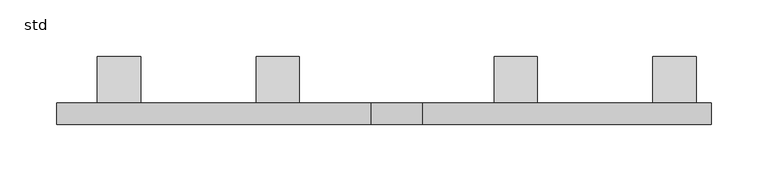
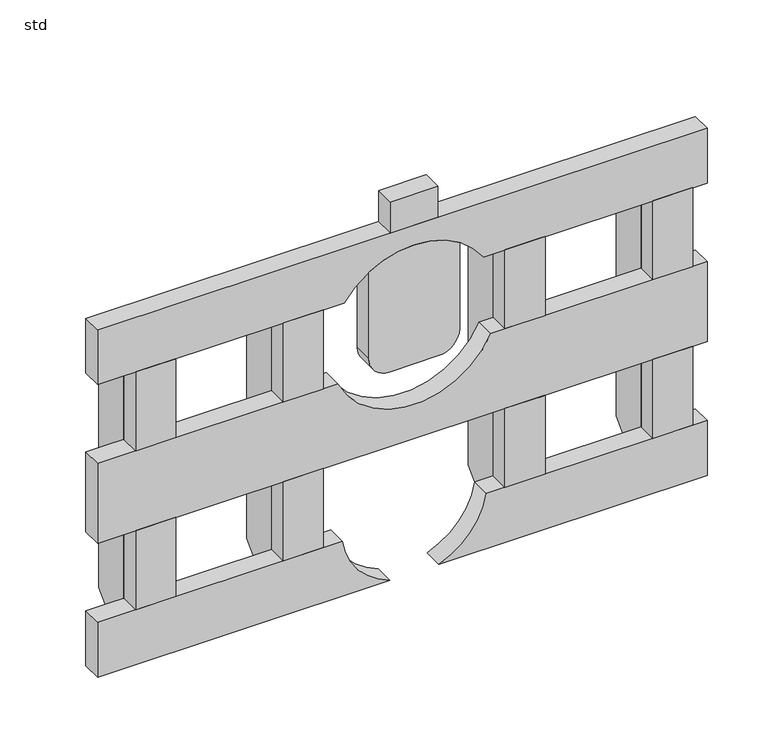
"""IFC4 building model written with IfcOpenShell, lengths in millimetres: unitary equipment geometry, Z_ME_UN_Aquacell_NG_Lateral_Side_Plate_Wavin_(nested) : std."""

from ifc_helpers import new_model, si_unit, point, frame, frame_2d, origin, place, context, project, spatial, polyline, circle_curve, trimmed, segment, composite_curve, outline, extrude, source, transform, mapped, element, save
from ifc_brep_helpers import plane_surface, revolved_surface, advanced_brep


def std_02d09377(model_context):
    return source(origin(), model_context, "Body", "SolidModel", [
        extrude(outline(composite_curve([segment(trimmed(circle_curve(frame_2d((264.0, 277.0)), 20.0), [point((264.0, 257.0))], [point((244.0, 277.0))], False, "CARTESIAN"), True, "CONTINUOUS"), segment(polyline([(244.0, 277.0), (244.0, 323.0)]), True, "CONTINUOUS"), segment(trimmed(circle_curve(frame_2d((264.0, 323.0)), 20.0), [point((244.0, 323.0))], [point((264.0, 343.0))], False, "CARTESIAN"), True, "CONTINUOUS"), segment(polyline([(264.0, 343.0), (350.4610999, 343.0)]), True, "CONTINUOUS"), segment(trimmed(circle_curve(frame_2d((283.0, 300.0)), 80.0), [point((350.4610999, 343.0))], [point((350.4610999, 257.0))], False, "CARTESIAN"), True, "CONTINUOUS"), segment(polyline([(350.4610999, 257.0), (264.0, 257.0)]), True, "CONTINUOUS")], self_intersect=False)), frame((0.0, 0.0, 0.0), z_axis=(0.0, 1.0, 0.0), x_axis=(0.0, 0.0, 1.0)), (0.0, 0.0, 1.0), 19.0),
        extrude(outline(polyline([(214.0, 0.0), (176.0, 0.0), (176.0, 19.0), (214.0, 19.0), (214.0, 0.0)])), frame((0.0, 0.0, 90.0), z_axis=(0.0, 0.0, 1.0), x_axis=(1.0, 0.0, 0.0)), (0.0, 0.0, 1.0), 79.0),
        extrude(outline(polyline([(214.0, 0.0), (176.0, 0.0), (176.0, 19.0), (214.0, 19.0), (214.0, 0.0)])), frame((0.0, 0.0, 249.0), z_axis=(0.0, 0.0, 1.0), x_axis=(1.0, 0.0, 0.0)), (0.0, 0.0, 1.0), 79.0),
        extrude(outline(polyline([(424.0, 0.0), (386.0, 0.0), (386.0, 19.0), (424.0, 19.0), (424.0, 0.0)])), frame((0.0, 0.0, 90.0), z_axis=(0.0, 0.0, 1.0), x_axis=(1.0, 0.0, 0.0)), (0.0, 0.0, 1.0), 79.0),
        extrude(outline(polyline([(424.0, 0.0), (386.0, 0.0), (386.0, 19.0), (424.0, 19.0), (424.0, 0.0)])), frame((0.0, 0.0, 249.0), z_axis=(0.0, 0.0, 1.0), x_axis=(1.0, 0.0, 0.0)), (0.0, 0.0, 1.0), 79.0),
        extrude(outline(polyline([(19.0, 35.0), (19.0, 367.0), (60.0, 326.0), (60.0, 76.0), (19.0, 35.0)])), frame((526.0, 0.0, 0.0), z_axis=(1.0, 0.0, 0.0), x_axis=(0.0, 1.0, 0.0)), (0.0, 0.0, 1.0), 38.0),
        extrude(outline(polyline([(19.0, 35.0), (19.0, 367.0), (60.0, 326.0), (60.0, 76.0), (19.0, 35.0)])), frame((386.0, 0.0, 0.0), z_axis=(1.0, 0.0, 0.0), x_axis=(0.0, 1.0, 0.0)), (0.0, 0.0, 1.0), 38.0),
        extrude(outline(polyline([(19.0, 35.0), (19.0, 367.0), (60.0, 326.0), (60.0, 76.0), (19.0, 35.0)])), frame((176.0, 0.0, 0.0), z_axis=(1.0, 0.0, 0.0), x_axis=(0.0, 1.0, 0.0)), (0.0, 0.0, 1.0), 38.0),
        extrude(outline(polyline([(19.0, 35.0), (19.0, 367.0), (60.0, 326.0), (60.0, 76.0), (19.0, 35.0)])), frame((36.0, 0.0, 0.0), z_axis=(1.0, 0.0, 0.0), x_axis=(0.0, 1.0, 0.0)), (0.0, 0.0, 1.0), 38.0),
        extrude(outline(polyline([(564.0, 0.0), (526.0, 0.0), (526.0, 19.0), (564.0, 19.0), (564.0, 0.0)])), frame((0.0, 0.0, 90.0), z_axis=(0.0, 0.0, 1.0), x_axis=(1.0, 0.0, 0.0)), (0.0, 0.0, 1.0), 79.0),
        extrude(outline(polyline([(564.0, 0.0), (526.0, 0.0), (526.0, 19.0), (564.0, 19.0), (564.0, 0.0)])), frame((0.0, 0.0, 249.0), z_axis=(0.0, 0.0, 1.0), x_axis=(1.0, 0.0, 0.0)), (0.0, 0.0, 1.0), 79.0),
        extrude(outline(polyline([(74.0, 0.0), (36.0, 0.0), (36.0, 19.0), (74.0, 19.0), (74.0, 0.0)])), frame((0.0, 0.0, 90.0), z_axis=(0.0, 0.0, 1.0), x_axis=(1.0, 0.0, 0.0)), (0.0, 0.0, 1.0), 79.0),
        extrude(outline(polyline([(74.0, 0.0), (36.0, 0.0), (36.0, 19.0), (74.0, 19.0), (74.0, 0.0)])), frame((0.0, 0.0, 249.0), z_axis=(0.0, 0.0, 1.0), x_axis=(1.0, 0.0, 0.0)), (0.0, 0.0, 1.0), 79.0),
        extrude(outline(polyline([(322.5, 19.0), (322.5, 0.0), (277.5, 0.0), (277.5, 19.0), (322.5, 19.0)])), frame((0.0, 0.0, 383.0), z_axis=(0.0, 0.0, 1.0), x_axis=(1.0, 0.0, 0.0)), (0.0, 0.0, 1.0), 31.0),
        advanced_brep(
        [(577.5, 19.0, 383.0), (577.5, 19.0, 328.0), (366.1437828, 19.0, 328.0), (233.8562172, 19.0, 328.0), (0.0, 19.0, 328.0), (0.0, 19.0, 383.0), (577.5, 0.0, 383.0), (0.0, 0.0, 383.0), (0.0, 0.0, 328.0), (233.8562172, 0.0, 328.0), (366.1437828, 0.0, 328.0), (577.5, 0.0, 328.0)],
        [
            (0, 1),
            (1, 2),
            (2, 3, circle_curve(frame((300.0, 19.0, 283.0), z_axis=(0.0, -1.0, 0.0), x_axis=(1.0, 0.0, 0.0)), 80.0)),
            (3, 4),
            (4, 5),
            (5, 0),
            (6, 7),
            (7, 8),
            (8, 9),
            (9, 10, circle_curve(frame((300.0, 0.0, 283.0), z_axis=(0.0, 1.0, 0.0), x_axis=(1.0, 0.0, 0.0)), 80.0)),
            (10, 11),
            (11, 6),
            (5, 7),
            (6, 0),
            (8, 4),
            (3, 9),
            (1, 11),
            (10, 2),
        ],
        [
            plane_surface(frame((0.0, 19.0, 90.0), z_axis=(0.0, 1.0, 0.0), x_axis=(1.0, 0.0, 0.0))),
            plane_surface(frame((0.0, 0.0, 90.0), z_axis=(0.0, -1.0, 0.0), x_axis=(-1.0, 0.0, 0.0))),
            plane_surface(frame((577.5, 0.0, 383.0), z_axis=(0.0, 0.0, 1.0), x_axis=(0.0, 1.0, 0.0))),
            plane_surface(frame((0.0, 0.0, 328.0), z_axis=(0.0, 0.0, -1.0), x_axis=(0.0, 1.0, 0.0))),
            plane_surface(frame((0.0, 0.0, 383.0), z_axis=(-1.0, 0.0, 0.0), x_axis=(0.0, 1.0, 0.0))),
            plane_surface(frame((577.5, 0.0, 328.0), z_axis=(1.0, 0.0, 0.0), x_axis=(0.0, 1.0, 0.0))),
            revolved_surface(polyline([(380.0, 0.0, 283.0), (380.0, 19.0, 283.0)]), (300.0, 19.0, 283.0), (0.0, -1.0, 0.0)),
        ],
        [
            (0, [[1, 2, 3, 4, 5, 6]]),
            (1, [[7, 8, 9, 10, 11, 12]]),
            (2, [[-6, 13, -7, 14]]),
            (3, [[15, -4, 16, -9]]),
            (3, [[17, -11, 18, -2]]),
            (4, [[-5, -15, -8, -13]]),
            (5, [[-1, -14, -12, -17]]),
            (6, [[-3, -18, -10, -16]]),
        ],
    ),
        advanced_brep(
        [(577.5, 19.0, 90.0), (577.5, 19.0, 35.0), (323.1516738, 19.0, 35.0), (368.2715168, 19.0, 90.0), (577.5, 0.0, 35.0), (577.5, 0.0, 90.0), (368.2715168, 0.0, 90.0), (323.1516738, 0.0, 35.0)],
        [
            (0, 1),
            (1, 2),
            (2, 3, circle_curve(frame((300.0, 19.0, 100.0), z_axis=(0.0, -1.0, 0.0), x_axis=(1.0, 0.0, 0.0)), 69.0)),
            (3, 0),
            (4, 5),
            (5, 6),
            (6, 7, circle_curve(frame((300.0, 0.0, 100.0), z_axis=(0.0, 1.0, 0.0), x_axis=(1.0, 0.0, 0.0)), 69.0)),
            (7, 4),
            (5, 0),
            (3, 6),
            (1, 4),
            (7, 2),
        ],
        [
            plane_surface(frame((0.0, 19.0, 90.0), z_axis=(0.0, 1.0, 0.0), x_axis=(1.0, 0.0, 0.0))),
            plane_surface(frame((0.0, 0.0, 90.0), z_axis=(0.0, -1.0, 0.0), x_axis=(-1.0, 0.0, 0.0))),
            plane_surface(frame((577.5, 0.0, 90.0), z_axis=(0.0, 0.0, 1.0), x_axis=(0.0, 1.0, 0.0))),
            plane_surface(frame((0.0, 0.0, 35.0), z_axis=(0.0, 0.0, -1.0), x_axis=(0.0, 1.0, 0.0))),
            plane_surface(frame((577.5, 0.0, 35.0), z_axis=(1.0, 0.0, 0.0), x_axis=(0.0, 1.0, 0.0))),
            revolved_surface(polyline([(369.0, 0.0, 100.0), (369.0, 19.0, 100.0)]), (300.0, 19.0, 100.0), (0.0, -1.0, 0.0)),
        ],
        [
            (0, [[1, 2, 3, 4]]),
            (1, [[5, 6, 7, 8]]),
            (2, [[9, -4, 10, -6]]),
            (3, [[11, -8, 12, -2]]),
            (4, [[-1, -9, -5, -11]]),
            (5, [[-3, -12, -7, -10]]),
        ],
    ),
        advanced_brep(
        [(0.0, 19.0, 35.0), (0.0, 19.0, 90.0), (231.7284832, 19.0, 90.0), (276.8483262, 19.0, 35.0), (0.0, 0.0, 90.0), (0.0, 0.0, 35.0), (276.8483262, 0.0, 35.0), (231.7284832, 0.0, 90.0)],
        [
            (0, 1),
            (1, 2),
            (2, 3, circle_curve(frame((300.0, 19.0, 100.0), z_axis=(0.0, -1.0, 0.0), x_axis=(1.0, 0.0, 0.0)), 69.0)),
            (3, 0),
            (4, 5),
            (5, 6),
            (6, 7, circle_curve(frame((300.0, 0.0, 100.0), z_axis=(0.0, 1.0, 0.0), x_axis=(1.0, 0.0, 0.0)), 69.0)),
            (7, 4),
            (1, 4),
            (7, 2),
            (5, 0),
            (3, 6),
        ],
        [
            plane_surface(frame((0.0, 19.0, 90.0), z_axis=(0.0, 1.0, 0.0), x_axis=(1.0, 0.0, 0.0))),
            plane_surface(frame((0.0, 0.0, 90.0), z_axis=(0.0, -1.0, 0.0), x_axis=(-1.0, 0.0, 0.0))),
            plane_surface(frame((577.5, 0.0, 90.0), z_axis=(0.0, 0.0, 1.0), x_axis=(0.0, 1.0, 0.0))),
            plane_surface(frame((0.0, 0.0, 35.0), z_axis=(0.0, 0.0, -1.0), x_axis=(0.0, 1.0, 0.0))),
            plane_surface(frame((0.0, 0.0, 90.0), z_axis=(-1.0, 0.0, 0.0), x_axis=(0.0, 1.0, 0.0))),
            revolved_surface(polyline([(369.0, 0.0, 100.0), (369.0, 19.0, 100.0)]), (300.0, 19.0, 100.0), (0.0, -1.0, 0.0)),
        ],
        [
            (0, [[1, 2, 3, 4]]),
            (1, [[5, 6, 7, 8]]),
            (2, [[9, -8, 10, -2]]),
            (3, [[11, -4, 12, -6]]),
            (4, [[-1, -11, -5, -9]]),
            (5, [[-3, -10, -7, -12]]),
        ],
    ),
        advanced_brep(
        [(577.5, 19.0, 249.0), (577.5, 19.0, 169.0), (300.0, 19.0, 169.0), (0.0, 19.0, 169.0), (0.0, 19.0, 249.0), (227.584532, 19.0, 249.0), (372.415468, 19.0, 249.0), (0.0, 0.0, 249.0), (0.0, 0.0, 169.0), (300.0, 0.0, 169.0), (577.5, 0.0, 169.0), (577.5, 0.0, 249.0), (372.415468, 0.0, 249.0), (227.584532, 0.0, 249.0)],
        [
            (0, 1),
            (1, 2),
            (2, 3),
            (3, 4),
            (4, 5),
            (5, 6, circle_curve(frame((300.0, 19.0, 283.0), z_axis=(0.0, -1.0, 0.0), x_axis=(1.0, 0.0, 0.0)), 80.0)),
            (6, 0),
            (7, 8),
            (8, 9),
            (9, 10),
            (10, 11),
            (11, 12),
            (12, 13, circle_curve(frame((300.0, 0.0, 283.0), z_axis=(0.0, 1.0, 0.0), x_axis=(1.0, 0.0, 0.0)), 80.0)),
            (13, 7),
            (11, 0),
            (6, 12),
            (4, 7),
            (13, 5),
            (8, 3),
            (1, 10),
        ],
        [
            plane_surface(frame((0.0, 19.0, 90.0), z_axis=(0.0, 1.0, 0.0), x_axis=(1.0, 0.0, 0.0))),
            plane_surface(frame((0.0, 0.0, 90.0), z_axis=(0.0, -1.0, 0.0), x_axis=(-1.0, 0.0, 0.0))),
            plane_surface(frame((577.5, 0.0, 249.0), z_axis=(0.0, 0.0, 1.0), x_axis=(0.0, 1.0, 0.0))),
            plane_surface(frame((0.0, 0.0, 169.0), z_axis=(0.0, 0.0, -1.0), x_axis=(0.0, 1.0, 0.0))),
            plane_surface(frame((0.0, 0.0, 249.0), z_axis=(-1.0, 0.0, 0.0), x_axis=(0.0, 1.0, 0.0))),
            plane_surface(frame((577.5, 0.0, 169.0), z_axis=(1.0, 0.0, 0.0), x_axis=(0.0, 1.0, 0.0))),
            revolved_surface(polyline([(380.0, 0.0, 283.0), (380.0, 19.0, 283.0)]), (300.0, 19.0, 283.0), (0.0, -1.0, 0.0)),
        ],
        [
            (0, [[1, 2, 3, 4, 5, 6, 7]]),
            (1, [[8, 9, 10, 11, 12, 13, 14]]),
            (2, [[15, -7, 16, -12]]),
            (2, [[17, -14, 18, -5]]),
            (3, [[19, -3, -2, 20, -10, -9]]),
            (4, [[-4, -19, -8, -17]]),
            (5, [[-1, -15, -11, -20]]),
            (6, [[-6, -18, -13, -16]]),
        ],
    ),
    ])


if __name__ == "__main__":
    model = new_model("IFC4")
    model_context = context("Model", 3, world=origin())
    ifc_project = project(units=[si_unit("LENGTHUNIT", "METRE", prefix="MILLI")], contexts=[model_context])
    site = spatial("IfcSite", under=ifc_project)
    building = spatial("IfcBuilding", under=site)
    placement = place(None, origin())
    std_shape = std_02d09377(model_context)
    element("IfcUnitaryEquipment", 1, ObjectType="Z_ME_UN_Aquacell_NG_Lateral_Side_Plate_Wavin_(nested) : std", at=placement, inside=building, context=model_context, shape_type="MappedRepresentation", body=[
        mapped(std_shape, transform((0.0, 0.0, 0.0), x_axis=(1.0, 0.0, 0.0), y_axis=(0.0, 1.0, 0.0), z_axis=(0.0, 0.0, 1.0))),
    ])
    save(model, "model.ifc")
